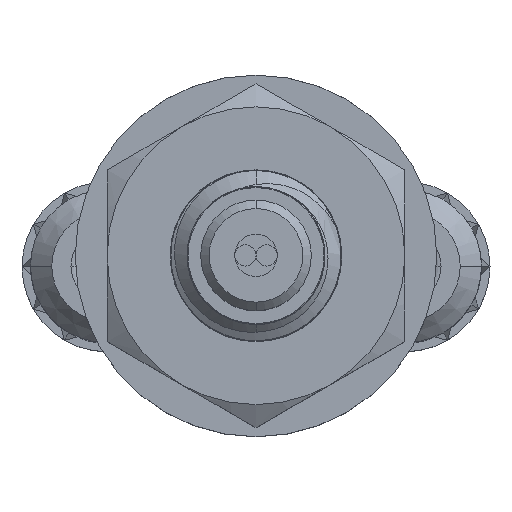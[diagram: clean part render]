
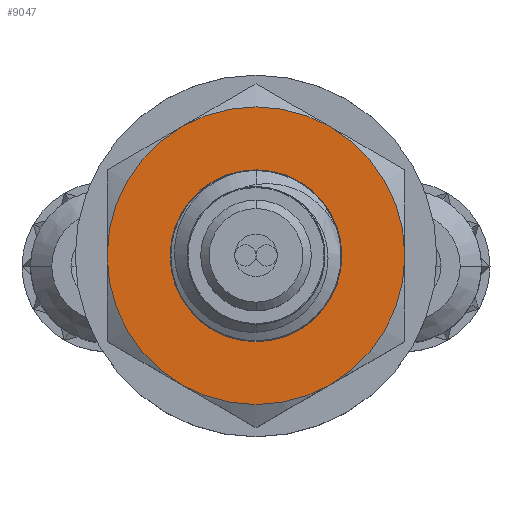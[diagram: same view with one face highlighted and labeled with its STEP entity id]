
A CAD part, top view. The second image highlights one B-rep face of the part: STEP entity #9047.
In plain terms, the highlighted planar face has unit normal (0, 0, 1).
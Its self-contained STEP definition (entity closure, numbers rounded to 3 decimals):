
#63 = CARTESIAN_POINT ( 'NONE',  ( -5.609, 0.506, 6.261 ) ) ;
#173 = DIRECTION ( 'NONE',  ( -1., 0., 0. ) ) ;
#237 = VERTEX_POINT ( 'NONE', #7086 ) ;
#426 = CARTESIAN_POINT ( 'NONE',  ( -3.589, 0.506, 6.261 ) ) ;
#644 = CARTESIAN_POINT ( 'NONE',  ( -5.609, 0.506, 6.261 ) ) ;
#957 = AXIS2_PLACEMENT_3D ( 'NONE', #5546, #7957, #11683 ) ;
#1046 = CARTESIAN_POINT ( 'NONE',  ( -3.859, -2.525, 6.261 ) ) ;
#1519 = CARTESIAN_POINT ( 'NONE',  ( -5.609, 0.506, 6.261 ) ) ;
#1803 = CARTESIAN_POINT ( 'NONE',  ( -7.629, 0.506, 6.261 ) ) ;
#1819 = CIRCLE ( 'NONE', #15058, 3.5 ) ;
#1843 = CARTESIAN_POINT ( 'NONE',  ( -5.609, 0.506, 6.261 ) ) ;
#2109 = ORIENTED_EDGE ( 'NONE', *, *, #4498, .F. ) ;
#2259 = CIRCLE ( 'NONE', #957, 3.5 ) ;
#2350 = AXIS2_PLACEMENT_3D ( 'NONE', #8839, #13654, #2616 ) ;
#2490 = AXIS2_PLACEMENT_3D ( 'NONE', #1843, #11839, #14264 ) ;
#2616 = DIRECTION ( 'NONE',  ( -1., 0., 0. ) ) ;
#2660 = EDGE_CURVE ( 'NONE', #14354, #11320, #2259, .T. ) ;
#2670 = CIRCLE ( 'NONE', #13139, 3.5 ) ;
#2749 = VERTEX_POINT ( 'NONE', #2932 ) ;
#2815 = ORIENTED_EDGE ( 'NONE', *, *, #13946, .T. ) ;
#2932 = CARTESIAN_POINT ( 'NONE',  ( -9.109, 0.506, 6.261 ) ) ;
#2945 = CIRCLE ( 'NONE', #13385, 3.5 ) ;
#2953 = ORIENTED_EDGE ( 'NONE', *, *, #4310, .T. ) ;
#3023 = CIRCLE ( 'NONE', #4910, 2.02 ) ;
#3140 = CARTESIAN_POINT ( 'NONE',  ( -2.109, 0.506, 6.261 ) ) ;
#3299 = DIRECTION ( 'NONE',  ( 0., 0., -1. ) ) ;
#4046 = DIRECTION ( 'NONE',  ( 0., 0., -1. ) ) ;
#4305 = DIRECTION ( 'NONE',  ( 0., 0., -1. ) ) ;
#4310 = EDGE_CURVE ( 'NONE', #15387, #12687, #9845, .T. ) ;
#4498 = EDGE_CURVE ( 'NONE', #11320, #10274, #1819, .T. ) ;
#4514 = CARTESIAN_POINT ( 'NONE',  ( -5.609, 0.506, 6.261 ) ) ;
#4523 = ORIENTED_EDGE ( 'NONE', *, *, #11577, .F. ) ;
#4910 = AXIS2_PLACEMENT_3D ( 'NONE', #63, #5234, #173 ) ;
#5234 = DIRECTION ( 'NONE',  ( 0., 0., -1. ) ) ;
#5456 = CARTESIAN_POINT ( 'NONE',  ( -3.859, 3.537, 6.261 ) ) ;
#5546 = CARTESIAN_POINT ( 'NONE',  ( -5.609, 0.506, 6.261 ) ) ;
#5653 = DIRECTION ( 'NONE',  ( -1., 0., 0. ) ) ;
#6341 = DIRECTION ( 'NONE',  ( 0., 0., -1. ) ) ;
#6507 = EDGE_LOOP ( 'NONE', ( #4523, #13206, #8581, #15044, #2109, #15610 ) ) ;
#7086 = CARTESIAN_POINT ( 'NONE',  ( -7.359, -2.525, 6.261 ) ) ;
#7218 = EDGE_CURVE ( 'NONE', #237, #2749, #2945, .T. ) ;
#7582 = DIRECTION ( 'NONE',  ( -1., 0., 0. ) ) ;
#7957 = DIRECTION ( 'NONE',  ( 0., 0., -1. ) ) ;
#8260 = DIRECTION ( 'NONE',  ( -1., 0., 0. ) ) ;
#8581 = ORIENTED_EDGE ( 'NONE', *, *, #13455, .F. ) ;
#8839 = CARTESIAN_POINT ( 'NONE',  ( -5.609, 0.506, 6.261 ) ) ;
#8899 = CARTESIAN_POINT ( 'NONE',  ( -5.609, 0.506, 6.261 ) ) ;
#8917 = DIRECTION ( 'NONE',  ( 0., 0., -1. ) ) ;
#9020 = DIRECTION ( 'NONE',  ( -1., 0., 0. ) ) ;
#9047 = ADVANCED_FACE ( 'NONE', ( #11105, #14059 ), #9992, .F. ) ;
#9425 = AXIS2_PLACEMENT_3D ( 'NONE', #8899, #6341, #7582 ) ;
#9845 = CIRCLE ( 'NONE', #12833, 2.02 ) ;
#9992 = PLANE ( 'NONE',  #9425 ) ;
#10274 = VERTEX_POINT ( 'NONE', #3140 ) ;
#10515 = CIRCLE ( 'NONE', #2350, 3.5 ) ;
#11105 = FACE_BOUND ( 'NONE', #15795, .T. ) ;
#11320 = VERTEX_POINT ( 'NONE', #5456 ) ;
#11577 = EDGE_CURVE ( 'NONE', #2749, #14354, #10515, .T. ) ;
#11683 = DIRECTION ( 'NONE',  ( -1., 0., 0. ) ) ;
#11839 = DIRECTION ( 'NONE',  ( 0., 0., -1. ) ) ;
#12681 = CARTESIAN_POINT ( 'NONE',  ( -5.609, 0.506, 6.261 ) ) ;
#12687 = VERTEX_POINT ( 'NONE', #426 ) ;
#12833 = AXIS2_PLACEMENT_3D ( 'NONE', #1519, #4046, #9020 ) ;
#13012 = VERTEX_POINT ( 'NONE', #1046 ) ;
#13139 = AXIS2_PLACEMENT_3D ( 'NONE', #12681, #8917, #15267 ) ;
#13206 = ORIENTED_EDGE ( 'NONE', *, *, #7218, .F. ) ;
#13312 = EDGE_CURVE ( 'NONE', #10274, #13012, #2670, .T. ) ;
#13385 = AXIS2_PLACEMENT_3D ( 'NONE', #4514, #3299, #8260 ) ;
#13455 = EDGE_CURVE ( 'NONE', #13012, #237, #14023, .T. ) ;
#13654 = DIRECTION ( 'NONE',  ( 0., 0., -1. ) ) ;
#13946 = EDGE_CURVE ( 'NONE', #12687, #15387, #3023, .T. ) ;
#14023 = CIRCLE ( 'NONE', #2490, 3.5 ) ;
#14059 = FACE_OUTER_BOUND ( 'NONE', #6507, .T. ) ;
#14264 = DIRECTION ( 'NONE',  ( -1., 0., 0. ) ) ;
#14354 = VERTEX_POINT ( 'NONE', #14794 ) ;
#14794 = CARTESIAN_POINT ( 'NONE',  ( -7.359, 3.537, 6.261 ) ) ;
#15044 = ORIENTED_EDGE ( 'NONE', *, *, #13312, .F. ) ;
#15058 = AXIS2_PLACEMENT_3D ( 'NONE', #644, #4305, #5653 ) ;
#15267 = DIRECTION ( 'NONE',  ( -1., 0., 0. ) ) ;
#15387 = VERTEX_POINT ( 'NONE', #1803 ) ;
#15610 = ORIENTED_EDGE ( 'NONE', *, *, #2660, .F. ) ;
#15795 = EDGE_LOOP ( 'NONE', ( #2815, #2953 ) ) ;
